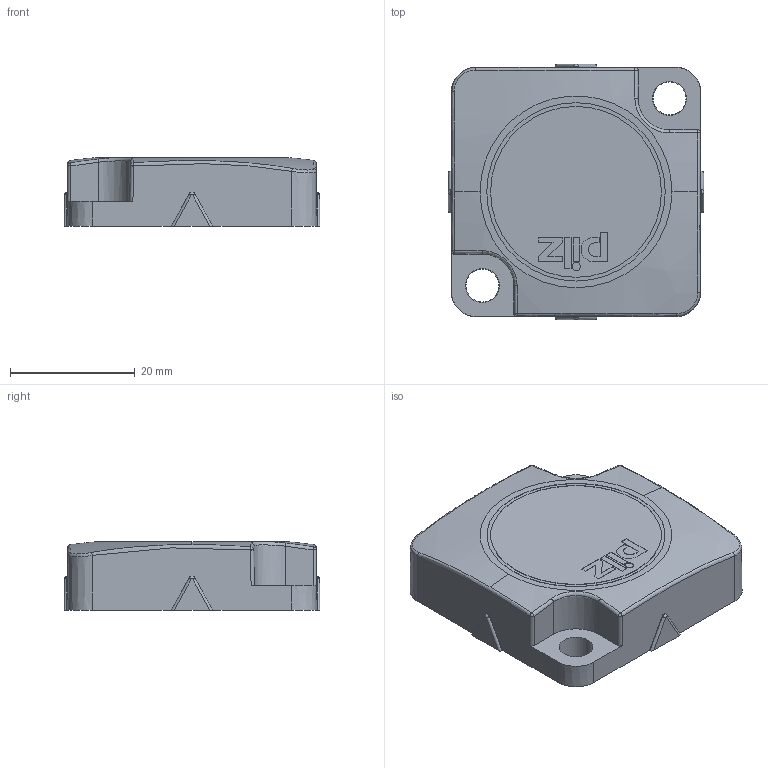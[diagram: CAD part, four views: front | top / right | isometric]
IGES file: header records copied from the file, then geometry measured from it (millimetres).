
Global section: file name: No Iges File Name specified; native system: Autodesk Inventor 2010; preprocessor: AutoDesk Inventor Iges Exporter R2010; author: pschmucki; date: 20110921.083429; units: millimetre
Bounding box: 41 x 41 x 11 mm (x, y, z)
Volume: 15649.3 mm3; surface area: 4777.8 mm2
Topology: 1 solids, 1 shells, 113 faces, 285 edges, 181 vertices
Faces by surface type: plane 54, bspline 21, cylinder 19, revolution 11, sphere 4, cone 4
